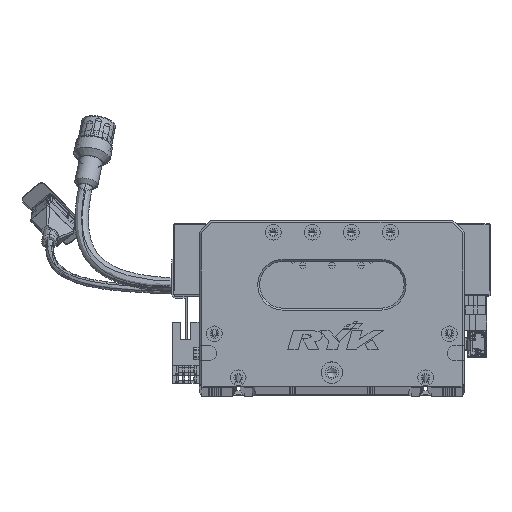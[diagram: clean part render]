
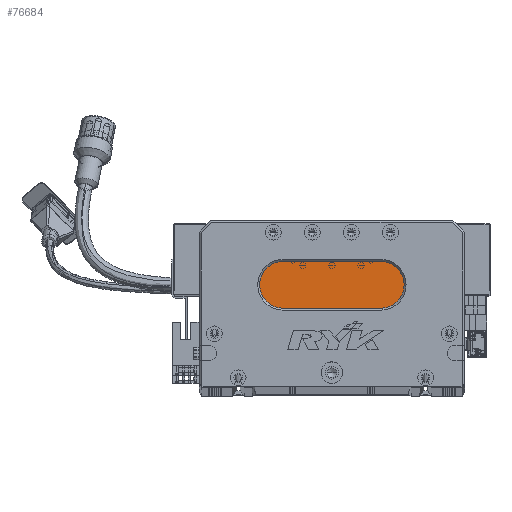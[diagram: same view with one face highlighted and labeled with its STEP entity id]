
A CAD part, top view. The second image highlights one B-rep face of the part: STEP entity #76684.
In plain terms, the highlighted planar face has unit normal (0, 0, 1) as drawn and (0, 0, -1) by its records, which use the part's own axes.
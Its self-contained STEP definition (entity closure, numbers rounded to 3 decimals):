
#894 = VERTEX_POINT ( 'NONE', #81999 ) ;
#1867 = AXIS2_PLACEMENT_3D ( 'NONE', #3100, #75380, #115992 ) ;
#3100 = CARTESIAN_POINT ( 'NONE',  ( 93., 52., 13. ) ) ;
#3568 = AXIS2_PLACEMENT_3D ( 'NONE', #82932, #10641, #44466 ) ;
#6215 = DIRECTION ( 'NONE',  ( 1., 0., 0. ) ) ;
#7640 = VERTEX_POINT ( 'NONE', #79380 ) ;
#10641 = DIRECTION ( 'NONE',  ( 0., 0., -1. ) ) ;
#14207 = CARTESIAN_POINT ( 'NONE',  ( 93., 40., 13. ) ) ;
#19050 = DIRECTION ( 'NONE',  ( 0., 0., -1. ) ) ;
#19484 = CARTESIAN_POINT ( 'NONE',  ( 43., 52., 13. ) ) ;
#21118 = EDGE_LOOP ( 'NONE', ( #72363, #81103, #64949, #111861, #125527 ) ) ;
#22326 = EDGE_CURVE ( 'NONE', #7640, #22922, #77114, .T. ) ;
#22922 = VERTEX_POINT ( 'NONE', #14207 ) ;
#23999 = EDGE_CURVE ( 'NONE', #894, #7640, #100925, .T. ) ;
#25619 = VECTOR ( 'NONE', #87636, 1000. ) ;
#28895 = CARTESIAN_POINT ( 'NONE',  ( 31., 52., 13. ) ) ;
#31455 = VECTOR ( 'NONE', #6215, 1000. ) ;
#38232 = CARTESIAN_POINT ( 'NONE',  ( 93., 64., 13. ) ) ;
#44307 = CARTESIAN_POINT ( 'NONE',  ( 43., 40., 13. ) ) ;
#44466 = DIRECTION ( 'NONE',  ( -1., 0., 0. ) ) ;
#56913 = CARTESIAN_POINT ( 'NONE',  ( 93., 40., 13. ) ) ;
#58056 = AXIS2_PLACEMENT_3D ( 'NONE', #86939, #105947, #86500 ) ;
#62383 = CIRCLE ( 'NONE', #132474, 12. ) ;
#62600 = PLANE ( 'NONE',  #3568 ) ;
#64546 = LINE ( 'NONE', #56913, #25619 ) ;
#64949 = ORIENTED_EDGE ( 'NONE', *, *, #130668, .T. ) ;
#72363 = ORIENTED_EDGE ( 'NONE', *, *, #22326, .T. ) ;
#72368 = VERTEX_POINT ( 'NONE', #44307 ) ;
#75380 = DIRECTION ( 'NONE',  ( 0., 0., -1. ) ) ;
#76684 = ADVANCED_FACE ( 'NONE', ( #130449 ), #62600, .T. ) ;
#77114 = CIRCLE ( 'NONE', #1867, 12. ) ;
#79380 = CARTESIAN_POINT ( 'NONE',  ( 93., 64., 13. ) ) ;
#80061 = DIRECTION ( 'NONE',  ( -1., 0., 0. ) ) ;
#81103 = ORIENTED_EDGE ( 'NONE', *, *, #97161, .T. ) ;
#81999 = CARTESIAN_POINT ( 'NONE',  ( 43., 64., 13. ) ) ;
#82932 = CARTESIAN_POINT ( 'NONE',  ( 93., 52., 13. ) ) ;
#86500 = DIRECTION ( 'NONE',  ( -1., 0., 0. ) ) ;
#86939 = CARTESIAN_POINT ( 'NONE',  ( 43., 52., 13. ) ) ;
#87636 = DIRECTION ( 'NONE',  ( -1., 0., 0. ) ) ;
#97161 = EDGE_CURVE ( 'NONE', #22922, #72368, #64546, .T. ) ;
#100925 = LINE ( 'NONE', #38232, #31455 ) ;
#105947 = DIRECTION ( 'NONE',  ( 0., 0., -1. ) ) ;
#111861 = ORIENTED_EDGE ( 'NONE', *, *, #133870, .T. ) ;
#115992 = DIRECTION ( 'NONE',  ( -1., 0., 0. ) ) ;
#119257 = VERTEX_POINT ( 'NONE', #28895 ) ;
#123209 = CIRCLE ( 'NONE', #58056, 12. ) ;
#125527 = ORIENTED_EDGE ( 'NONE', *, *, #23999, .T. ) ;
#130449 = FACE_OUTER_BOUND ( 'NONE', #21118, .T. ) ;
#130668 = EDGE_CURVE ( 'NONE', #72368, #119257, #123209, .T. ) ;
#132474 = AXIS2_PLACEMENT_3D ( 'NONE', #19484, #19050, #80061 ) ;
#133870 = EDGE_CURVE ( 'NONE', #119257, #894, #62383, .T. ) ;
